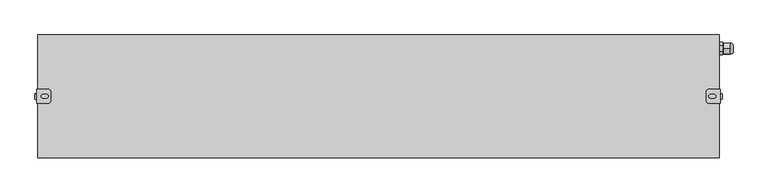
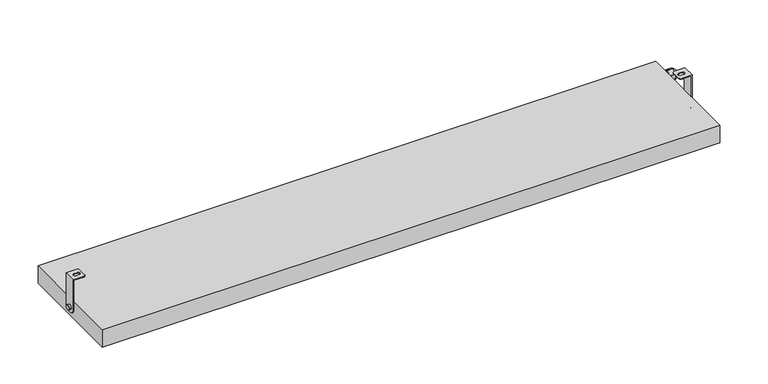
"""IFC4 building model written with IfcOpenShell, lengths in millimetres: light fixture geometry, GENILED_Светильник светодиодный_Titan Advanced : Titan Advanced 1000x180x30 100Вт IP66 Матовое закаленное стекло."""

from ifc_helpers import new_model, si_unit, point, frame, frame_2d, origin, origin_with_axes, place, context, project, spatial, polyline, circle_curve, ellipse_curve, trimmed, segment, composite_curve, outline, extrude, source, transform, mapped, element, save
from ifc_brep_helpers import plane_surface, cylinder_surface, revolved_surface, advanced_brep


def light_fixture_dffcc7fd(model_context):
    return source(origin(), model_context, "Body", "SolidModel", [
        advanced_brep(
        [(-484.0, 10.0, 67.0), (-501.0, 10.0, 67.0), (-501.0, -10.0, 67.0), (-484.0, -10.0, 67.0), (-481.0, -7.0, 67.0), (-481.0, 7.0, 67.0), (-487.0, 2.75, 67.0), (-487.0, -2.75, 67.0), (-492.0, -2.75, 67.0), (-492.0, 2.75, 67.0), (-484.0, -10.0, 66.0), (-500.0, -10.0, 66.0), (-500.0, 10.0, 66.0), (-484.0, 10.0, 66.0), (-481.0, 7.0, 66.0), (-481.0, -7.0, 66.0), (-487.0, 2.75, 66.0), (-492.0, 2.75, 66.0), (-492.0, -2.75, 66.0), (-487.0, -2.75, 66.0), (-501.0, -10.0, 15.0), (-500.0, -10.0, 15.0), (-501.0, 10.0, 15.0), (-501.0, 2.0, 7.0), (-501.0, -2.0, 7.0), (-501.0, 4.0, 15.0), (-501.0, -4.0, 15.0), (-500.0, 10.0, 15.0), (-500.0, -2.0, 7.0), (-500.0, 2.0, 7.0), (-504.0, -4.0, 15.0), (-504.0, 4.0, 15.0)],
        [
            (0, 1),
            (1, 2),
            (2, 3),
            (3, 4, circle_curve(frame((-484.0, -7.0, 67.0), z_axis=(0.0, 0.0, 1.0), x_axis=(-1.0, 0.0, 0.0)), 3.0)),
            (4, 5),
            (5, 0, circle_curve(frame((-484.0, 7.0, 67.0), z_axis=(0.0, 0.0, 1.0), x_axis=(-1.0, 0.0, 0.0)), 3.0)),
            (6, 7, circle_curve(frame((-487.0, 0.0, 67.0), z_axis=(0.0, 0.0, -1.0), x_axis=(-1.0, 0.0, 0.0)), 2.75)),
            (7, 8),
            (8, 9, circle_curve(frame((-492.0, 0.0, 67.0), z_axis=(0.0, 0.0, -1.0), x_axis=(-1.0, 0.0, 0.0)), 2.75)),
            (9, 6),
            (10, 11),
            (11, 12),
            (12, 13),
            (13, 14, circle_curve(frame((-484.0, 7.0, 66.0), z_axis=(0.0, 0.0, -1.0), x_axis=(-1.0, 0.0, 0.0)), 3.0)),
            (14, 15),
            (15, 10, circle_curve(frame((-484.0, -7.0, 66.0), z_axis=(0.0, 0.0, -1.0), x_axis=(-1.0, 0.0, 0.0)), 3.0)),
            (16, 17),
            (17, 18, circle_curve(frame((-492.0, 0.0, 66.0), z_axis=(0.0, 0.0, 1.0), x_axis=(-1.0, 0.0, 0.0)), 2.75)),
            (18, 19),
            (19, 16, circle_curve(frame((-487.0, 0.0, 66.0), z_axis=(0.0, 0.0, 1.0), x_axis=(-1.0, 0.0, 0.0)), 2.75)),
            (5, 14),
            (13, 0),
            (4, 15),
            (3, 10),
            (2, 20),
            (20, 21),
            (21, 11),
            (1, 22),
            (22, 23, circle_curve(frame((-501.0, 2.0, 15.0), z_axis=(-1.0, 0.0, 0.0), x_axis=(0.0, 1.0, 0.0)), 8.0)),
            (23, 24),
            (24, 20, circle_curve(frame((-501.0, -2.0, 15.0), z_axis=(-1.0, 0.0, 0.0), x_axis=(0.0, 1.0, 0.0)), 8.0)),
            (25, 26, circle_curve(frame((-501.0, 0.0, 15.0), z_axis=(1.0, 0.0, 0.0), x_axis=(0.0, 1.0, 0.0)), 4.0)),
            (26, 25, circle_curve(frame((-501.0, 0.0, 15.0), z_axis=(1.0, 0.0, 0.0), x_axis=(0.0, 1.0, 0.0)), 4.0)),
            (12, 27),
            (27, 22),
            (9, 17),
            (16, 6),
            (8, 18),
            (7, 19),
            (21, 28, circle_curve(frame((-500.0, -2.0, 15.0), z_axis=(1.0, 0.0, 0.0), x_axis=(0.0, 1.0, 0.0)), 8.0)),
            (28, 29),
            (29, 27, circle_curve(frame((-500.0, 2.0, 15.0), z_axis=(1.0, 0.0, 0.0), x_axis=(0.0, 1.0, 0.0)), 8.0)),
            (24, 28),
            (23, 29),
            (30, 31, circle_curve(frame((-504.0, 0.0, 15.0), z_axis=(-1.0, 0.0, 0.0), x_axis=(0.0, 1.0, 0.0)), 4.0)),
            (31, 30, circle_curve(frame((-504.0, 0.0, 15.0), z_axis=(-1.0, 0.0, 0.0), x_axis=(0.0, 1.0, 0.0)), 4.0)),
            (31, 25),
            (26, 30),
        ],
        [
            plane_surface(frame((-487.0, 7.0, 67.0), z_axis=(0.0, 0.0, 1.0), x_axis=(0.0, 1.0, 0.0))),
            plane_surface(frame((-487.0, 7.0, 66.0), z_axis=(0.0, 0.0, -1.0), x_axis=(0.0, -1.0, 0.0))),
            cylinder_surface(frame((-484.0, 7.0, 66.0), z_axis=(0.0, 0.0, 1.0), x_axis=(-1.0, 0.0, 0.0)), 3.0),
            plane_surface(frame((-481.0, 7.0, 67.0), z_axis=(1.0, 0.0, 0.0), x_axis=(0.0, 0.0, -1.0))),
            cylinder_surface(frame((-484.0, -7.0, 66.0), z_axis=(0.0, 0.0, 1.0), x_axis=(-1.0, 0.0, 0.0)), 3.0),
            plane_surface(frame((-484.0, -10.0, 67.0), z_axis=(0.0, -1.0, 0.0), x_axis=(0.0, 0.0, -1.0))),
            plane_surface(frame((-501.0, -10.0, 67.0), z_axis=(-1.0, 0.0, 0.0), x_axis=(0.0, 0.0, -1.0))),
            plane_surface(frame((-501.0, 10.0, 67.0), z_axis=(0.0, 1.0, 0.0), x_axis=(0.0, 0.0, -1.0))),
            plane_surface(frame((-487.0, 2.75, 67.0), z_axis=(0.0, -1.0, 0.0), x_axis=(0.0, 0.0, -1.0))),
            revolved_surface(polyline([(-494.75, 0.0, 66.0), (-494.75, 0.0, 67.0)]), (-492.0, 0.0, 15.0), (0.0, 0.0, -1.0)),
            plane_surface(frame((-492.0, -2.75, 67.0), z_axis=(0.0, 1.0, 0.0), x_axis=(0.0, 0.0, -1.0))),
            revolved_surface(polyline([(-489.75, 0.0, 66.0), (-489.75, 0.0, 67.0)]), (-487.0, 0.0, 15.0), (0.0, 0.0, -1.0)),
            plane_surface(frame((-500.0, -10.0, 67.0), z_axis=(1.0, 0.0, 0.0), x_axis=(0.0, 1.0, 0.0))),
            cylinder_surface(frame((-500.0, -2.0, 15.0), z_axis=(-1.0, 0.0, 0.0), x_axis=(0.0, 1.0, 0.0)), 8.0),
            plane_surface(frame((-501.0, -2.0, 7.0), z_axis=(0.0, 0.0, -1.0), x_axis=(1.0, 0.0, 0.0))),
            cylinder_surface(frame((-500.0, 2.0, 15.0), z_axis=(-1.0, 0.0, 0.0), x_axis=(0.0, 1.0, 0.0)), 8.0),
            plane_surface(frame((-504.0, 4.0, 15.0), z_axis=(-1.0, 0.0, 0.0), x_axis=(0.0, 0.0, 1.0))),
            cylinder_surface(frame((-501.0, 0.0, 15.0), z_axis=(-1.0, 0.0, 0.0), x_axis=(0.0, 1.0, 0.0)), 4.0),
        ],
        [
            (0, [[1, 2, 3, 4, 5, 6], [7, 8, 9, 10]]),
            (1, [[11, 12, 13, 14, 15, 16], [17, 18, 19, 20]]),
            (2, [[21, -14, 22, -6]]),
            (3, [[23, -15, -21, -5]]),
            (4, [[24, -16, -23, -4]]),
            (5, [[-3, 25, 26, 27, -11, -24]]),
            (6, [[28, 29, 30, 31, -25, -2], [32, 33]]),
            (7, [[-13, 34, 35, -28, -1, -22]]),
            (8, [[36, -17, 37, -10]]),
            (9, [[38, -18, -36, -9]]),
            (10, [[39, -19, -38, -8]]),
            (11, [[-37, -20, -39, -7]]),
            (12, [[-34, -12, -27, 40, 41, 42]]),
            (13, [[43, -40, -26, -31]]),
            (14, [[44, -41, -43, -30]]),
            (15, [[-35, -42, -44, -29]]),
            (16, [[45, 46]]),
            (17, [[47, -33, 48, -46]]),
            (17, [[-48, -32, -47, -45]]),
        ],
    ),
        advanced_brep(
        [(484.0, 10.0, 67.0), (481.0, 7.0, 67.0), (481.0, -7.0, 67.0), (484.0, -10.0, 67.0), (501.0, -10.0, 67.0), (501.0, 10.0, 67.0), (487.0, 2.75, 67.0), (492.0, 2.75, 67.0), (492.0, -2.75, 67.0), (487.0, -2.75, 67.0), (484.0, -10.0, 66.0), (481.0, -7.0, 66.0), (481.0, 7.0, 66.0), (484.0, 10.0, 66.0), (500.0, 10.0, 66.0), (500.0, -10.0, 66.0), (487.0, 2.75, 66.0), (487.0, -2.75, 66.0), (492.0, -2.75, 66.0), (492.0, 2.75, 66.0), (500.0, -10.0, 15.0), (501.0, -10.0, 15.0), (501.0, -2.0, 7.0), (501.0, 2.0, 7.0), (501.0, 10.0, 15.0), (501.0, 4.0, 15.0), (501.0, -4.0, 15.0), (500.0, 10.0, 15.0), (500.0, 2.0, 7.0), (500.0, -2.0, 7.0), (504.0, -4.0, 15.0), (504.0, 4.0, 15.0)],
        [
            (0, 1, circle_curve(frame((484.0, 7.0, 67.0), z_axis=(0.0, 0.0, 1.0), x_axis=(1.0, 0.0, 0.0)), 3.0)),
            (1, 2),
            (2, 3, circle_curve(frame((484.0, -7.0, 67.0), z_axis=(0.0, 0.0, 1.0), x_axis=(1.0, 0.0, 0.0)), 3.0)),
            (3, 4),
            (4, 5),
            (5, 0),
            (6, 7),
            (7, 8, circle_curve(frame((492.0, 0.0, 67.0), z_axis=(0.0, 0.0, -1.0), x_axis=(1.0, 0.0, 0.0)), 2.75)),
            (8, 9),
            (9, 6, circle_curve(frame((487.0, 0.0, 67.0), z_axis=(0.0, 0.0, -1.0), x_axis=(1.0, 0.0, 0.0)), 2.75)),
            (10, 11, circle_curve(frame((484.0, -7.0, 66.0), z_axis=(0.0, 0.0, -1.0), x_axis=(1.0, 0.0, 0.0)), 3.0)),
            (11, 12),
            (12, 13, circle_curve(frame((484.0, 7.0, 66.0), z_axis=(0.0, 0.0, -1.0), x_axis=(1.0, 0.0, 0.0)), 3.0)),
            (13, 14),
            (14, 15),
            (15, 10),
            (16, 17, circle_curve(frame((487.0, 0.0, 66.0), z_axis=(0.0, 0.0, 1.0), x_axis=(1.0, 0.0, 0.0)), 2.75)),
            (17, 18),
            (18, 19, circle_curve(frame((492.0, 0.0, 66.0), z_axis=(0.0, 0.0, 1.0), x_axis=(1.0, 0.0, 0.0)), 2.75)),
            (19, 16),
            (0, 13),
            (12, 1),
            (11, 2),
            (10, 3),
            (15, 20),
            (20, 21),
            (21, 4),
            (21, 22, circle_curve(frame((501.0, -2.0, 15.0), z_axis=(1.0, 0.0, 0.0), x_axis=(0.0, 1.0, 0.0)), 8.0)),
            (22, 23),
            (23, 24, circle_curve(frame((501.0, 2.0, 15.0), z_axis=(1.0, 0.0, 0.0), x_axis=(0.0, 1.0, 0.0)), 8.0)),
            (24, 5),
            (25, 26, circle_curve(frame((501.0, 0.0, 15.0), z_axis=(-1.0, 0.0, 0.0), x_axis=(0.0, 1.0, 0.0)), 4.0)),
            (26, 25, circle_curve(frame((501.0, 0.0, 15.0), z_axis=(-1.0, 0.0, 0.0), x_axis=(0.0, 1.0, 0.0)), 4.0)),
            (24, 27),
            (27, 14),
            (6, 16),
            (19, 7),
            (18, 8),
            (17, 9),
            (27, 28, circle_curve(frame((500.0, 2.0, 15.0), z_axis=(-1.0, 0.0, 0.0), x_axis=(0.0, 1.0, 0.0)), 8.0)),
            (28, 29),
            (29, 20, circle_curve(frame((500.0, -2.0, 15.0), z_axis=(-1.0, 0.0, 0.0), x_axis=(0.0, 1.0, 0.0)), 8.0)),
            (29, 22),
            (28, 23),
            (30, 31, circle_curve(frame((504.0, 0.0, 15.0), z_axis=(1.0, 0.0, 0.0), x_axis=(0.0, 1.0, 0.0)), 4.0)),
            (31, 30, circle_curve(frame((504.0, 0.0, 15.0), z_axis=(1.0, 0.0, 0.0), x_axis=(0.0, 1.0, 0.0)), 4.0)),
            (30, 26),
            (25, 31),
        ],
        [
            plane_surface(frame((487.0, 7.0, 67.0), z_axis=(0.0, 0.0, 1.0), x_axis=(0.0, 1.0, 0.0))),
            plane_surface(frame((487.0, 7.0, 66.0), z_axis=(0.0, 0.0, -1.0), x_axis=(0.0, -1.0, 0.0))),
            cylinder_surface(frame((484.0, 7.0, 66.0), z_axis=(0.0, 0.0, 1.0), x_axis=(1.0, 0.0, 0.0)), 3.0),
            plane_surface(frame((481.0, 7.0, 67.0), z_axis=(-1.0, 0.0, 0.0), x_axis=(0.0, 0.0, -1.0))),
            cylinder_surface(frame((484.0, -7.0, 66.0), z_axis=(0.0, 0.0, 1.0), x_axis=(1.0, 0.0, 0.0)), 3.0),
            plane_surface(frame((484.0, -10.0, 67.0), z_axis=(0.0, -1.0, 0.0), x_axis=(0.0, 0.0, -1.0))),
            plane_surface(frame((501.0, -10.0, 67.0), z_axis=(1.0, 0.0, 0.0), x_axis=(0.0, 0.0, -1.0))),
            plane_surface(frame((501.0, 10.0, 67.0), z_axis=(0.0, 1.0, 0.0), x_axis=(0.0, 0.0, -1.0))),
            plane_surface(frame((487.0, 2.75, 67.0), z_axis=(0.0, -1.0, 0.0), x_axis=(0.0, 0.0, -1.0))),
            revolved_surface(polyline([(494.75, 0.0, 66.0), (494.75, 0.0, 67.0)]), (492.0, 0.0, 15.0), (0.0, 0.0, -1.0)),
            plane_surface(frame((492.0, -2.75, 67.0), z_axis=(0.0, 1.0, 0.0), x_axis=(0.0, 0.0, -1.0))),
            revolved_surface(polyline([(489.75, 0.0, 66.0), (489.75, 0.0, 67.0)]), (487.0, 0.0, 15.0), (0.0, 0.0, -1.0)),
            plane_surface(frame((500.0, -10.0, 67.0), z_axis=(-1.0, 0.0, 0.0), x_axis=(0.0, 1.0, 0.0))),
            cylinder_surface(frame((500.0, -2.0, 15.0), z_axis=(1.0, 0.0, 0.0), x_axis=(0.0, 1.0, 0.0)), 8.0),
            plane_surface(frame((501.0, -2.0, 7.0), z_axis=(0.0, 0.0, -1.0), x_axis=(-1.0, 0.0, 0.0))),
            cylinder_surface(frame((500.0, 2.0, 15.0), z_axis=(1.0, 0.0, 0.0), x_axis=(0.0, 1.0, 0.0)), 8.0),
            plane_surface(frame((504.0, 4.0, 15.0), z_axis=(1.0, 0.0, 0.0), x_axis=(0.0, 0.0, 1.0))),
            cylinder_surface(frame((501.0, 0.0, 15.0), z_axis=(1.0, 0.0, 0.0), x_axis=(0.0, 1.0, 0.0)), 4.0),
        ],
        [
            (0, [[1, 2, 3, 4, 5, 6], [7, 8, 9, 10]]),
            (1, [[11, 12, 13, 14, 15, 16], [17, 18, 19, 20]]),
            (2, [[-1, 21, -13, 22]]),
            (3, [[-2, -22, -12, 23]]),
            (4, [[-3, -23, -11, 24]]),
            (5, [[-24, -16, 25, 26, 27, -4]]),
            (6, [[-5, -27, 28, 29, 30, 31], [32, 33]]),
            (7, [[-21, -6, -31, 34, 35, -14]]),
            (8, [[-7, 36, -20, 37]]),
            (9, [[-8, -37, -19, 38]]),
            (10, [[-9, -38, -18, 39]]),
            (11, [[-10, -39, -17, -36]]),
            (12, [[40, 41, 42, -25, -15, -35]]),
            (13, [[-28, -26, -42, 43]]),
            (14, [[-29, -43, -41, 44]]),
            (15, [[-30, -44, -40, -34]]),
            (16, [[45, 46]]),
            (17, [[-45, 47, -32, 48]]),
            (17, [[-46, -48, -33, -47]]),
        ],
    ),
        advanced_brep(
        [(520.0120269, 64.15, 15.0), (520.0120269, 75.85, 15.0), (520.0120269, 73.5, 15.0), (520.0120269, 66.5, 15.0), (516.0120269, 62.0, 15.0), (516.0120269, 66.0, 8.0717968), (516.0120269, 74.0, 8.0717968), (516.0120269, 78.0, 15.0), (516.0120269, 74.0, 21.9282032), (516.0120269, 66.0, 21.9282032), (516.0120269, 73.5, 15.0), (516.0120269, 66.5, 15.0), (516.0120269, 62.0, 10.8768944), (516.0120269, 62.4292858, 10.1333496), (516.0120269, 69.5707142, 6.010244), (516.0120269, 70.4292858, 6.010244), (516.0120269, 77.5707142, 10.1333496), (516.0120269, 78.0, 10.8768944), (516.0120269, 78.0, 19.1231056), (516.0120269, 77.5707142, 19.8666504), (516.0120269, 70.4292858, 23.989756), (516.0120269, 69.5707142, 23.989756), (516.0120269, 62.4292858, 19.8666504), (516.0120269, 62.0, 19.1231056), (506.6, 69.5707142, 6.010244), (506.6, 62.4292858, 10.1333496), (506.6, 62.0, 10.8768944), (506.6, 62.0, 19.1231056), (506.6, 62.4292858, 19.8666504), (506.6, 69.5707142, 23.989756), (506.6, 70.4292858, 23.989756), (506.6, 77.5707142, 19.8666504), (506.6, 78.0, 19.1231056), (506.6, 78.0, 10.8768944), (506.6, 77.5707142, 10.1333496), (506.6, 70.4292858, 6.010244), (506.6, 77.25, 15.0), (506.6, 62.75, 15.0), (504.6, 77.25, 15.0), (504.6, 62.75, 15.0), (504.6, 78.989756, 15.4292858), (504.6, 74.8666504, 22.5707142), (504.6, 74.1231056, 23.0), (504.6, 65.8768944, 23.0), (504.6, 65.1333496, 22.5707142), (504.6, 61.010244, 15.4292858), (504.6, 61.0, 15.0), (504.6, 61.010244, 14.5707142), (504.6, 65.1333496, 7.4292858), (504.6, 65.8768944, 7.0), (504.6, 74.1231056, 7.0), (504.6, 74.8666504, 7.4292858), (504.6, 78.989756, 14.5707142), (504.6, 79.0, 15.0), (500.0, 78.989756, 14.5707142), (500.0, 74.8666504, 7.4292858), (500.0, 74.1231056, 7.0), (500.0, 65.8768944, 7.0), (500.0, 65.1333496, 7.4292858), (500.0, 61.010244, 14.5707142), (500.0, 61.0, 15.0), (500.0, 61.010244, 15.4292858), (500.0, 65.1333496, 22.5707142), (500.0, 65.8768944, 23.0), (500.0, 74.1231056, 23.0), (500.0, 74.8666504, 22.5707142), (500.0, 78.989756, 15.4292858), (500.0, 79.0, 15.0)],
        [
            (0, 1, circle_curve(frame((520.0120269, 70.0, 15.0), z_axis=(1.0, 0.0, 0.0), x_axis=(0.0, 1.0, 0.0)), 5.85)),
            (1, 2),
            (2, 3, circle_curve(frame((520.0120269, 70.0, 15.0), z_axis=(-1.0, 0.0, 0.0), x_axis=(0.0, 1.0, 0.0)), 3.5)),
            (3, 0),
            (1, 0, circle_curve(frame((520.0120269, 70.0, 15.0), z_axis=(1.0, 0.0, 0.0), x_axis=(0.0, 1.0, 0.0)), 5.85)),
            (3, 2, circle_curve(frame((520.0120269, 70.0, 15.0), z_axis=(-1.0, 0.0, 0.0), x_axis=(0.0, 1.0, 0.0)), 3.5)),
            (0, 4, circle_curve(frame((515.6269324, 67.5123851, 15.0), z_axis=(0.0, 0.0, -1.0), x_axis=(0.0, 1.0, 0.0)), 5.5258201)),
            (4, 5, circle_curve(frame((516.0120269, 70.0, 15.0), z_axis=(1.0, 0.0, 0.0), x_axis=(0.0, 1.0, 0.0)), 8.0)),
            (5, 6, circle_curve(frame((516.0120269, 70.0, 15.0), z_axis=(1.0, 0.0, 0.0), x_axis=(0.0, 1.0, 0.0)), 8.0)),
            (6, 7, circle_curve(frame((516.0120269, 70.0, 15.0), z_axis=(1.0, 0.0, 0.0), x_axis=(0.0, 1.0, 0.0)), 8.0)),
            (7, 1, circle_curve(frame((515.6269324, 72.4876149, 15.0), z_axis=(0.0, 0.0, -1.0), x_axis=(0.0, -1.0, 0.0)), 5.5258201)),
            (7, 8, circle_curve(frame((516.0120269, 70.0, 15.0), z_axis=(1.0, 0.0, 0.0), x_axis=(0.0, 1.0, 0.0)), 8.0)),
            (8, 9, circle_curve(frame((516.0120269, 70.0, 15.0), z_axis=(1.0, 0.0, 0.0), x_axis=(0.0, 1.0, 0.0)), 8.0)),
            (9, 4, circle_curve(frame((516.0120269, 70.0, 15.0), z_axis=(1.0, 0.0, 0.0), x_axis=(0.0, 1.0, 0.0)), 8.0)),
            (2, 10),
            (10, 11, circle_curve(frame((516.0120269, 70.0, 15.0), z_axis=(-1.0, 0.0, 0.0), x_axis=(0.0, 1.0, 0.0)), 3.5)),
            (11, 3),
            (11, 10, circle_curve(frame((516.0120269, 70.0, 15.0), z_axis=(-1.0, 0.0, 0.0), x_axis=(0.0, 1.0, 0.0)), 3.5)),
            (4, 12),
            (12, 13, circle_curve(frame((516.0120269, 70.0, 15.0), z_axis=(1.0, 0.0, 0.0), x_axis=(0.0, -1.0, 0.0)), 9.0)),
            (13, 5),
            (5, 14),
            (14, 15, circle_curve(frame((516.0120269, 70.0, 15.0), z_axis=(1.0, 0.0, 0.0), x_axis=(0.0, -1.0, 0.0)), 9.0)),
            (15, 6),
            (6, 16),
            (16, 17, circle_curve(frame((516.0120269, 70.0, 15.0), z_axis=(1.0, 0.0, 0.0), x_axis=(0.0, -1.0, 0.0)), 9.0)),
            (17, 7),
            (7, 18),
            (18, 19, circle_curve(frame((516.0120269, 70.0, 15.0), z_axis=(1.0, 0.0, 0.0), x_axis=(0.0, -1.0, 0.0)), 9.0)),
            (19, 8),
            (8, 20),
            (20, 21, circle_curve(frame((516.0120269, 70.0, 15.0), z_axis=(1.0, 0.0, 0.0), x_axis=(0.0, -1.0, 0.0)), 9.0)),
            (21, 9),
            (9, 22),
            (22, 23, circle_curve(frame((516.0120269, 70.0, 15.0), z_axis=(1.0, 0.0, 0.0), x_axis=(0.0, -1.0, 0.0)), 9.0)),
            (23, 4),
            (24, 25),
            (25, 26, circle_curve(frame((506.6, 70.0, 15.0), z_axis=(-1.0, 0.0, 0.0), x_axis=(0.0, -1.0, 0.0)), 9.0)),
            (26, 27),
            (27, 28, circle_curve(frame((506.6, 70.0, 15.0), z_axis=(-1.0, 0.0, 0.0), x_axis=(0.0, -1.0, 0.0)), 9.0)),
            (28, 29),
            (29, 30, circle_curve(frame((506.6, 70.0, 15.0), z_axis=(-1.0, 0.0, 0.0), x_axis=(0.0, -1.0, 0.0)), 9.0)),
            (30, 31),
            (31, 32, circle_curve(frame((506.6, 70.0, 15.0), z_axis=(-1.0, 0.0, 0.0), x_axis=(0.0, -1.0, 0.0)), 9.0)),
            (32, 33),
            (33, 34, circle_curve(frame((506.6, 70.0, 15.0), z_axis=(-1.0, 0.0, 0.0), x_axis=(0.0, -1.0, 0.0)), 9.0)),
            (34, 35),
            (35, 24, circle_curve(frame((506.6, 70.0, 15.0), z_axis=(-1.0, 0.0, 0.0), x_axis=(0.0, -1.0, 0.0)), 9.0)),
            (36, 37, circle_curve(frame((506.6, 70.0, 15.0), z_axis=(1.0, 0.0, 0.0), x_axis=(0.0, -1.0, 0.0)), 7.25)),
            (37, 36, circle_curve(frame((506.6, 70.0, 15.0), z_axis=(1.0, 0.0, 0.0), x_axis=(0.0, -1.0, 0.0)), 7.25)),
            (15, 35),
            (34, 16),
            (17, 33),
            (32, 18),
            (19, 31),
            (30, 20),
            (21, 29),
            (28, 22),
            (23, 27),
            (26, 12),
            (13, 25),
            (24, 14),
            (36, 38),
            (38, 39, circle_curve(frame((504.6, 70.0, 15.0), z_axis=(1.0, 0.0, 0.0), x_axis=(0.0, -1.0, 0.0)), 7.25)),
            (39, 37),
            (39, 38, circle_curve(frame((504.6, 70.0, 15.0), z_axis=(1.0, 0.0, 0.0), x_axis=(0.0, -1.0, 0.0)), 7.25)),
            (40, 41),
            (41, 42, circle_curve(frame((504.6, 70.0, 15.0), z_axis=(1.0, 0.0, 0.0), x_axis=(0.0, -1.0, 0.0)), 9.0)),
            (42, 43),
            (43, 44, circle_curve(frame((504.6, 70.0, 15.0), z_axis=(1.0, 0.0, 0.0), x_axis=(0.0, -1.0, 0.0)), 9.0)),
            (44, 45),
            (45, 46, circle_curve(frame((504.6, 70.0, 15.0), z_axis=(1.0, 0.0, 0.0), x_axis=(0.0, -1.0, 0.0)), 9.0)),
            (46, 47, circle_curve(frame((504.6, 70.0, 15.0), z_axis=(1.0, 0.0, 0.0), x_axis=(0.0, -1.0, 0.0)), 9.0)),
            (47, 48),
            (48, 49, circle_curve(frame((504.6, 70.0, 15.0), z_axis=(1.0, 0.0, 0.0), x_axis=(0.0, -1.0, 0.0)), 9.0)),
            (49, 50),
            (50, 51, circle_curve(frame((504.6, 70.0, 15.0), z_axis=(1.0, 0.0, 0.0), x_axis=(0.0, -1.0, 0.0)), 9.0)),
            (51, 52),
            (52, 53, circle_curve(frame((504.6, 70.0, 15.0), z_axis=(1.0, 0.0, 0.0), x_axis=(0.0, -1.0, 0.0)), 9.0)),
            (53, 40, circle_curve(frame((504.6, 70.0, 15.0), z_axis=(1.0, 0.0, 0.0), x_axis=(0.0, -1.0, 0.0)), 9.0)),
            (54, 55),
            (55, 56, circle_curve(frame((500.0, 70.0, 15.0), z_axis=(-1.0, 0.0, 0.0), x_axis=(0.0, -1.0, 0.0)), 9.0)),
            (56, 57),
            (57, 58, circle_curve(frame((500.0, 70.0, 15.0), z_axis=(-1.0, 0.0, 0.0), x_axis=(0.0, -1.0, 0.0)), 9.0)),
            (58, 59),
            (59, 60, circle_curve(frame((500.0, 70.0, 15.0), z_axis=(-1.0, 0.0, 0.0), x_axis=(0.0, -1.0, 0.0)), 9.0)),
            (60, 61, circle_curve(frame((500.0, 70.0, 15.0), z_axis=(-1.0, 0.0, 0.0), x_axis=(0.0, -1.0, 0.0)), 9.0)),
            (61, 62),
            (62, 63, circle_curve(frame((500.0, 70.0, 15.0), z_axis=(-1.0, 0.0, 0.0), x_axis=(0.0, -1.0, 0.0)), 9.0)),
            (63, 64),
            (64, 65, circle_curve(frame((500.0, 70.0, 15.0), z_axis=(-1.0, 0.0, 0.0), x_axis=(0.0, -1.0, 0.0)), 9.0)),
            (65, 66),
            (66, 67, circle_curve(frame((500.0, 70.0, 15.0), z_axis=(-1.0, 0.0, 0.0), x_axis=(0.0, -1.0, 0.0)), 9.0)),
            (67, 54, circle_curve(frame((500.0, 70.0, 15.0), z_axis=(-1.0, 0.0, 0.0), x_axis=(0.0, -1.0, 0.0)), 9.0)),
            (40, 66),
            (65, 41),
            (42, 64),
            (63, 43),
            (44, 62),
            (61, 45),
            (47, 59),
            (58, 48),
            (49, 57),
            (56, 50),
            (51, 55),
            (54, 52),
            (67, 53),
            (46, 60),
        ],
        [
            plane_surface(frame((520.0120269, 70.0, 15.0), z_axis=(1.0, 0.0, 0.0), x_axis=(0.0, 1.0, 0.0))),
            revolved_surface(trimmed(ellipse_curve(frame((515.6269324, 72.4876149, 15.0), z_axis=(0.0, 0.0, 1.0), x_axis=(0.0, -1.0, 0.0)), 5.5258201, 5.5258201), [point((520.0120269, 75.85, 15.0))], [point((516.0120269, 78.0, 15.0))], True, "CARTESIAN"), (516.0120269, 70.0, 15.0), (-1.0, 0.0, 0.0)),
            revolved_surface(polyline([(516.0120269, 73.5, 15.0), (520.0120269, 73.5, 15.0)]), (516.0120269, 70.0, 15.0), (-1.0, 0.0, 0.0)),
            plane_surface(frame((516.0120269, 70.0, 5.7623957), z_axis=(1.0000000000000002, 0.0, 0.0), x_axis=(0.0, 0.8660254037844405, 0.49999999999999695))),
            plane_surface(frame((506.6, 70.0, 5.7623957), z_axis=(-1.0000000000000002, 0.0, 0.0), x_axis=(0.0, -0.8660254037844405, -0.49999999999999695))),
            plane_surface(frame((516.0120269, 70.0, 5.7623957), z_axis=(0.0, 0.49999999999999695, -0.8660254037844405), x_axis=(-1.0, 0.0, 0.0))),
            plane_surface(frame((516.0120269, 78.0, 10.3811978), z_axis=(0.0, 1.0, 0.0), x_axis=(-1.0, 0.0, 0.0))),
            plane_surface(frame((516.0120269, 78.0, 19.6188022), z_axis=(0.0, 0.5000000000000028, 0.8660254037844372), x_axis=(-1.0, 0.0, 0.0))),
            plane_surface(frame((516.0120269, 70.0, 24.2376043), z_axis=(0.0, -0.49999999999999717, 0.8660254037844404), x_axis=(-1.0, 0.0, 0.0))),
            plane_surface(frame((516.0120269, 62.0, 19.6188022), z_axis=(0.0, -1.0, 0.0), x_axis=(-1.0, 0.0, 0.0))),
            plane_surface(frame((516.0120269, 62.0, 10.3811978), z_axis=(0.0, -0.5000000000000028, -0.8660254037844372), x_axis=(-1.0, 0.0, 0.0))),
            cylinder_surface(frame((504.6, 70.0, 15.0), z_axis=(1.0, 0.0, 0.0), x_axis=(0.0, -1.0, 0.0)), 7.25),
            plane_surface(frame((504.6, 79.2376043, 15.0), z_axis=(1.0, 0.0, 0.0), x_axis=(0.0, -0.5000000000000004, 0.8660254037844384))),
            plane_surface(frame((500.0, 79.2376043, 15.0), z_axis=(-1.0, 0.0, 0.0), x_axis=(0.0, 0.5000000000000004, -0.8660254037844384))),
            plane_surface(frame((504.6, 79.2376043, 15.0), z_axis=(0.0, 0.8660254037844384, 0.5000000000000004), x_axis=(-1.0, 0.0, 0.0))),
            plane_surface(frame((504.6, 74.6188022, 23.0), z_axis=(0.0, 0.0, 1.0), x_axis=(-1.0, 0.0, 0.0))),
            plane_surface(frame((504.6, 65.3811978, 23.0), z_axis=(0.0, -0.866025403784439, 0.49999999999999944), x_axis=(-1.0, 0.0, 0.0))),
            plane_surface(frame((504.6, 60.7623957, 15.0), z_axis=(0.0, -0.8660254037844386, -0.5000000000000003), x_axis=(-1.0, 0.0, 0.0))),
            plane_surface(frame((504.6, 65.3811978, 7.0), z_axis=(0.0, 0.0, -1.0), x_axis=(-1.0, 0.0, 0.0))),
            plane_surface(frame((504.6, 74.6188022, 7.0), z_axis=(0.0, 0.8660254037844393, -0.49999999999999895), x_axis=(-1.0, 0.0, 0.0))),
            cylinder_surface(frame((500.0, 70.0, 15.0), z_axis=(-1.0, 0.0, 0.0), x_axis=(0.0, -1.0, 0.0)), 9.0),
        ],
        [
            (0, [[1, 2, 3, 4]]),
            (0, [[-2, 5, -4, 6]]),
            (1, [[-1, 7, 8, 9, 10, 11]]),
            (1, [[-5, -11, 12, 13, 14, -7]]),
            (2, [[-3, 15, 16, 17]]),
            (2, [[-6, -17, 18, -15]]),
            (3, [[-8, 19, 20, 21]]),
            (3, [[-9, 22, 23, 24]]),
            (3, [[-10, 25, 26, 27]]),
            (3, [[-12, 28, 29, 30]]),
            (3, [[-13, 31, 32, 33]]),
            (3, [[-14, 34, 35, 36]]),
            (3, [[-16, -18]]),
            (4, [[37, 38, 39, 40, 41, 42, 43, 44, 45, 46, 47, 48], [49, 50]]),
            (5, [[-25, -24, 51, -47, 52]]),
            (6, [[-27, 53, -45, 54, -28]]),
            (7, [[-30, 55, -43, 56, -31]]),
            (8, [[-34, -33, 57, -41, 58]]),
            (9, [[-36, 59, -39, 60, -19]]),
            (10, [[-21, 61, -37, 62, -22]]),
            (11, [[63, 64, 65, -49]]),
            (11, [[-63, -50, -65, 66]]),
            (12, [[67, 68, 69, 70, 71, 72, 73, 74, 75, 76, 77, 78, 79, 80], [-64, -66]]),
            (13, [[81, 82, 83, 84, 85, 86, 87, 88, 89, 90, 91, 92, 93, 94]]),
            (14, [[-67, 95, -92, 96]]),
            (15, [[-69, 97, -90, 98]]),
            (16, [[-71, 99, -88, 100]]),
            (17, [[-74, 101, -85, 102]]),
            (18, [[-76, 103, -83, 104]]),
            (19, [[-78, 105, -81, 106]]),
            (20, [[-20, -60, -38, -61]]),
            (20, [[-23, -62, -48, -51]]),
            (20, [[-26, -52, -46, -53]]),
            (20, [[-75, -102, -84, -103]]),
            (20, [[-77, -104, -82, -105]]),
            (20, [[107, -79, -106, -94]]),
            (20, [[108, -86, -101, -73]]),
            (20, [[-29, -54, -44, -55]]),
            (20, [[-32, -56, -42, -57]]),
            (20, [[-35, -58, -40, -59]]),
            (20, [[-68, -96, -91, -97]]),
            (20, [[-70, -98, -89, -99]]),
            (20, [[-107, -93, -95, -80]]),
            (20, [[-108, -72, -100, -87]]),
        ],
    ),
        advanced_brep(
        [(500.0, 90.0, 30.0), (-500.0, 90.0, 30.0), (-500.0, -90.0, 30.0), (500.0, -90.0, 30.0), (500.0, 90.0, 0.0), (500.0, -90.0, 0.0), (-500.0, -90.0, 0.0), (-500.0, 90.0, 0.0), (470.0, 75.0, 0.0), (-470.0, 75.0, 0.0), (-485.0, 60.0, 0.0), (-485.0, -60.0, 0.0), (-470.0, -75.0, 0.0), (470.0, -75.0, 0.0), (485.0, -60.0, 0.0), (485.0, 60.0, 0.0), (485.0, 60.0, 5.0), (470.0, 75.0, 5.0), (485.0, -60.0, 5.0), (470.0, -75.0, 5.0), (-470.0, -75.0, 5.0), (-485.0, -60.0, 5.0), (-485.0, 60.0, 5.0), (-470.0, 75.0, 5.0)],
        [
            (0, 1),
            (1, 2),
            (2, 3),
            (3, 0),
            (4, 5),
            (5, 6),
            (6, 7),
            (7, 4),
            (8, 9),
            (9, 10, circle_curve(frame((-470.0, 60.0, 0.0), z_axis=(0.0, 0.0, 1.0), x_axis=(1.0, 0.0, 0.0)), 15.0)),
            (10, 11),
            (11, 12, circle_curve(frame((-470.0, -60.0, 0.0), z_axis=(0.0, 0.0, 1.0), x_axis=(1.0, 0.0, 0.0)), 15.0)),
            (12, 13),
            (13, 14, circle_curve(frame((470.0, -60.0, 0.0), z_axis=(0.0, 0.0, 1.0), x_axis=(1.0, 0.0, 0.0)), 15.0)),
            (14, 15),
            (15, 8, circle_curve(frame((470.0, 60.0, 0.0), z_axis=(0.0, 0.0, 1.0), x_axis=(1.0, 0.0, 0.0)), 15.0)),
            (0, 4),
            (7, 1),
            (6, 2),
            (5, 3),
            (15, 16),
            (16, 17, circle_curve(frame((470.0, 60.0, 5.0), z_axis=(0.0, 0.0, 1.0), x_axis=(1.0, 0.0, 0.0)), 15.0)),
            (17, 8),
            (14, 18),
            (18, 16),
            (13, 19),
            (19, 18, circle_curve(frame((470.0, -60.0, 5.0), z_axis=(0.0, 0.0, 1.0), x_axis=(1.0, 0.0, 0.0)), 15.0)),
            (12, 20),
            (20, 19),
            (11, 21),
            (21, 20, circle_curve(frame((-470.0, -60.0, 5.0), z_axis=(0.0, 0.0, 1.0), x_axis=(1.0, 0.0, 0.0)), 15.0)),
            (10, 22),
            (22, 21),
            (9, 23),
            (23, 22, circle_curve(frame((-470.0, 60.0, 5.0), z_axis=(0.0, 0.0, 1.0), x_axis=(1.0, 0.0, 0.0)), 15.0)),
            (17, 23),
        ],
        [
            plane_surface(frame((-500.0, 90.0, 30.0), z_axis=(0.0, 0.0, 1.0), x_axis=(-1.0, 0.0, 0.0))),
            plane_surface(frame((-500.0, 90.0, 0.0), z_axis=(0.0, 0.0, -1.0), x_axis=(1.0, 0.0, 0.0))),
            plane_surface(frame((500.0, 90.0, 30.0), z_axis=(0.0, 1.0, 0.0), x_axis=(0.0, 0.0, -1.0))),
            plane_surface(frame((-500.0, 90.0, 30.0), z_axis=(-1.0, 0.0, 0.0), x_axis=(0.0, 0.0, -1.0))),
            plane_surface(frame((-500.0, -90.0, 30.0), z_axis=(0.0, -1.0, 0.0), x_axis=(0.0, 0.0, -1.0))),
            plane_surface(frame((500.0, -90.0, 30.0), z_axis=(1.0, 0.0, 0.0), x_axis=(0.0, 0.0, -1.0))),
            revolved_surface(polyline([(485.0, 60.0, 0.0), (485.0, 60.0, 5.0)]), (470.0, 60.0, 0.0), (0.0, 0.0, -1.0)),
            plane_surface(frame((485.0, 60.0, 30.0), z_axis=(-1.0, 0.0, 0.0), x_axis=(0.0, 0.0, -1.0))),
            revolved_surface(polyline([(485.0, -60.0, 0.0), (485.0, -60.0, 5.0)]), (470.0, -60.0, 0.0), (0.0, 0.0, -1.0)),
            plane_surface(frame((470.0, -75.0, 30.0), z_axis=(0.0, 1.0, 0.0), x_axis=(0.0, 0.0, -1.0))),
            revolved_surface(polyline([(-455.0, -60.0, 0.0), (-455.0, -60.0, 5.0)]), (-470.0, -60.0, 0.0), (0.0, 0.0, -1.0)),
            plane_surface(frame((-485.0, -60.0, 30.0), z_axis=(1.0, 0.0, 0.0), x_axis=(0.0, 0.0, -1.0))),
            revolved_surface(polyline([(-455.0, 60.0, 0.0), (-455.0, 60.0, 5.0)]), (-470.0, 60.0, 0.0), (0.0, 0.0, -1.0)),
            plane_surface(frame((-470.0, 75.0, 30.0), z_axis=(0.0, -1.0, 0.0), x_axis=(0.0, 0.0, -1.0))),
            plane_surface(frame((-470.0, 75.0, 5.0), z_axis=(0.0, 0.0, -1.0), x_axis=(1.0, 0.0, 0.0))),
        ],
        [
            (0, [[1, 2, 3, 4]]),
            (1, [[5, 6, 7, 8], [9, 10, 11, 12, 13, 14, 15, 16]]),
            (2, [[-1, 17, -8, 18]]),
            (3, [[-2, -18, -7, 19]]),
            (4, [[-3, -19, -6, 20]]),
            (5, [[-4, -20, -5, -17]]),
            (6, [[-16, 21, 22, 23]]),
            (7, [[-15, 24, 25, -21]]),
            (8, [[-14, 26, 27, -24]]),
            (9, [[-13, 28, 29, -26]]),
            (10, [[-12, 30, 31, -28]]),
            (11, [[-11, 32, 33, -30]]),
            (12, [[-10, 34, 35, -32]]),
            (13, [[-9, -23, 36, -34]]),
            (14, [[-22, -25, -27, -29, -31, -33, -35, -36]]),
        ],
    ),
        extrude(outline(composite_curve([segment(trimmed(circle_curve(frame_2d((470.0, 60.0)), 15.0), [point((470.0, 75.0))], [point((485.0, 60.0))], False, "CARTESIAN"), True, "CONTINUOUS"), segment(polyline([(485.0, 60.0), (485.0, -60.0)]), True, "CONTINUOUS"), segment(trimmed(circle_curve(frame_2d((470.0, -60.0)), 15.0), [point((485.0, -60.0))], [point((470.0, -75.0))], False, "CARTESIAN"), True, "CONTINUOUS"), segment(polyline([(470.0, -75.0), (-470.0, -75.0)]), True, "CONTINUOUS"), segment(trimmed(circle_curve(frame_2d((-470.0, -60.0)), 15.0), [point((-470.0, -75.0))], [point((-485.0, -60.0))], False, "CARTESIAN"), True, "CONTINUOUS"), segment(polyline([(-485.0, -60.0), (-485.0, 60.0)]), True, "CONTINUOUS"), segment(trimmed(circle_curve(frame_2d((-470.0, 60.0)), 15.0), [point((-485.0, 60.0))], [point((-470.0, 75.0))], False, "CARTESIAN"), True, "CONTINUOUS"), segment(polyline([(-470.0, 75.0), (470.0, 75.0)]), True, "CONTINUOUS")], self_intersect=False)), origin_with_axes(), (0.0, 0.0, 1.0), 5.0),
    ])


if __name__ == "__main__":
    model = new_model("IFC4")
    model_context = context("Model", 3, world=origin())
    ifc_project = project(units=[si_unit("LENGTHUNIT", "METRE", prefix="MILLI")], contexts=[model_context])
    site = spatial("IfcSite", under=ifc_project)
    building = spatial("IfcBuilding", under=site)
    placement = place(None, origin())
    light_fixture_shape = light_fixture_dffcc7fd(model_context)
    element("IfcLightFixture", 1, ObjectType="GENILED_Светильник светодиодный_Titan Advanced : Titan Advanced 1000x180x30 100Вт IP66 Матовое закаленное стекло", at=placement, inside=building, context=model_context, shape_type="MappedRepresentation", body=[
        mapped(light_fixture_shape, transform((0.0, 0.0, 0.0), x_axis=(1.0, 0.0, 0.0), y_axis=(0.0, 1.0, 0.0), z_axis=(0.0, 0.0, 1.0))),
    ])
    save(model, "model.ifc")
